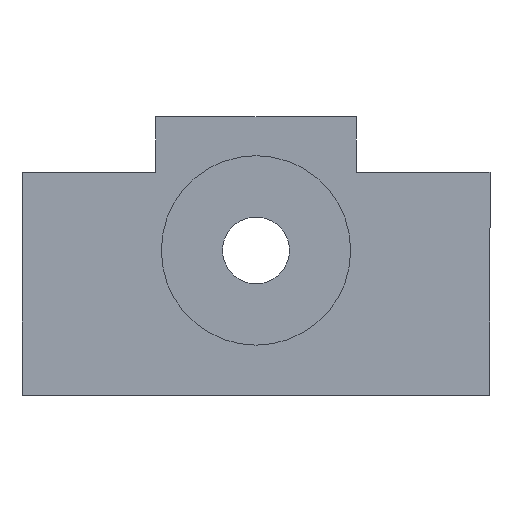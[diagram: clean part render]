
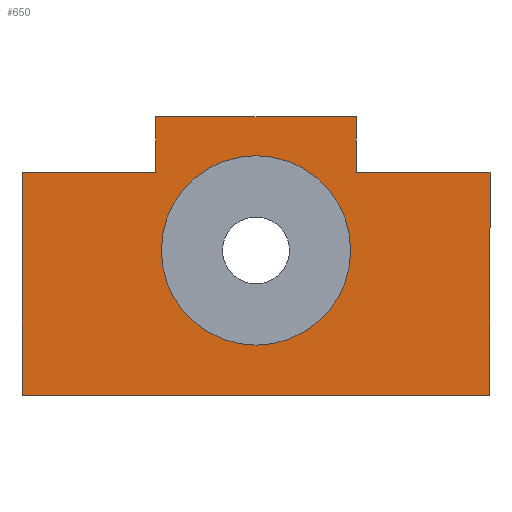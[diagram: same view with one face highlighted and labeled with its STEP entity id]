
A CAD part, left-side view. The second image highlights one B-rep face of the part: STEP entity #650.
In plain terms, the highlighted planar face has unit normal (-1, 0, 0).
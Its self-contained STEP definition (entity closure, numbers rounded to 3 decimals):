
#360=CARTESIAN_POINT('',(0.0,8.5,0.));
#361=VERTEX_POINT('',#360);
#362=CARTESIAN_POINT('',(0.0,0.0,0.0));
#363=DIRECTION('',(1.0,0.0,0.0));
#364=DIRECTION('',(0.0,-1.0,0.0));
#365=AXIS2_PLACEMENT_3D('',#362,#363,#364);
#366=CIRCLE('',#365,8.5);
#367=EDGE_CURVE('',#361,#361,#366,.T.);
#387=CARTESIAN_POINT('',(0.0,-21.,7.));
#388=VERTEX_POINT('',#387);
#395=CARTESIAN_POINT('',(0.0,-21.,-13.));
#396=VERTEX_POINT('',#395);
#397=CARTESIAN_POINT('',(0.0,-21.,7.));
#398=DIRECTION('',(0.0,0.0,-1.0));
#399=VECTOR('',#398,20.);
#400=LINE('',#397,#399);
#401=EDGE_CURVE('',#388,#396,#400,.T.);
#425=CARTESIAN_POINT('',(0.0,-9.,7.));
#426=VERTEX_POINT('',#425);
#433=CARTESIAN_POINT('',(0.0,-9.,7.));
#434=DIRECTION('',(0.0,-1.0,0.0));
#435=VECTOR('',#434,12.);
#436=LINE('',#433,#435);
#437=EDGE_CURVE('',#426,#388,#436,.T.);
#459=CARTESIAN_POINT('',(0.0,-9.,12.));
#460=VERTEX_POINT('',#459);
#467=CARTESIAN_POINT('',(0.0,-9.,12.));
#468=DIRECTION('',(0.0,0.0,-1.0));
#469=VECTOR('',#468,5.);
#470=LINE('',#467,#469);
#471=EDGE_CURVE('',#460,#426,#470,.T.);
#490=CARTESIAN_POINT('',(0.0,9.,12.));
#491=VERTEX_POINT('',#490);
#498=CARTESIAN_POINT('',(0.0,9.,12.));
#499=DIRECTION('',(0.0,-1.0,0.0));
#500=VECTOR('',#499,18.);
#501=LINE('',#498,#500);
#502=EDGE_CURVE('',#491,#460,#501,.T.);
#521=CARTESIAN_POINT('',(0.0,9.,7.));
#522=VERTEX_POINT('',#521);
#529=CARTESIAN_POINT('',(0.0,9.,7.));
#530=DIRECTION('',(0.0,0.0,1.0));
#531=VECTOR('',#530,5.);
#532=LINE('',#529,#531);
#533=EDGE_CURVE('',#522,#491,#532,.T.);
#552=CARTESIAN_POINT('',(0.0,21.,7.));
#553=VERTEX_POINT('',#552);
#560=CARTESIAN_POINT('',(0.0,21.,7.));
#561=DIRECTION('',(0.0,-1.0,0.0));
#562=VECTOR('',#561,12.);
#563=LINE('',#560,#562);
#564=EDGE_CURVE('',#553,#522,#563,.T.);
#586=CARTESIAN_POINT('',(0.0,21.,-13.));
#587=VERTEX_POINT('',#586);
#594=CARTESIAN_POINT('',(0.0,21.,-13.));
#595=DIRECTION('',(0.0,0.0,1.0));
#596=VECTOR('',#595,20.);
#597=LINE('',#594,#596);
#598=EDGE_CURVE('',#587,#553,#597,.T.);
#616=CARTESIAN_POINT('',(0.0,-21.,-13.));
#617=DIRECTION('',(0.0,1.0,0.0));
#618=VECTOR('',#617,42.);
#619=LINE('',#616,#618);
#620=EDGE_CURVE('',#396,#587,#619,.T.);
#632=CARTESIAN_POINT('',(0.0,0.,-1.396));
#633=DIRECTION('',(1.0,0.0,0.0));
#634=DIRECTION('',(0.0,0.0,-1.0));
#635=AXIS2_PLACEMENT_3D('',#632,#633,#634);
#636=PLANE('',#635);
#637=ORIENTED_EDGE('',*,*,#620,.F.);
#638=ORIENTED_EDGE('',*,*,#401,.F.);
#639=ORIENTED_EDGE('',*,*,#437,.F.);
#640=ORIENTED_EDGE('',*,*,#471,.F.);
#641=ORIENTED_EDGE('',*,*,#502,.F.);
#642=ORIENTED_EDGE('',*,*,#533,.F.);
#643=ORIENTED_EDGE('',*,*,#564,.F.);
#644=ORIENTED_EDGE('',*,*,#598,.F.);
#645=EDGE_LOOP('',(#637,#638,#639,#640,#641,#642,#643,#644));
#646=FACE_OUTER_BOUND('',#645,.T.);
#647=ORIENTED_EDGE('',*,*,#367,.T.);
#648=EDGE_LOOP('',(#647));
#649=FACE_BOUND('',#648,.T.);
#650=ADVANCED_FACE('',(#646,#649),#636,.F.);
